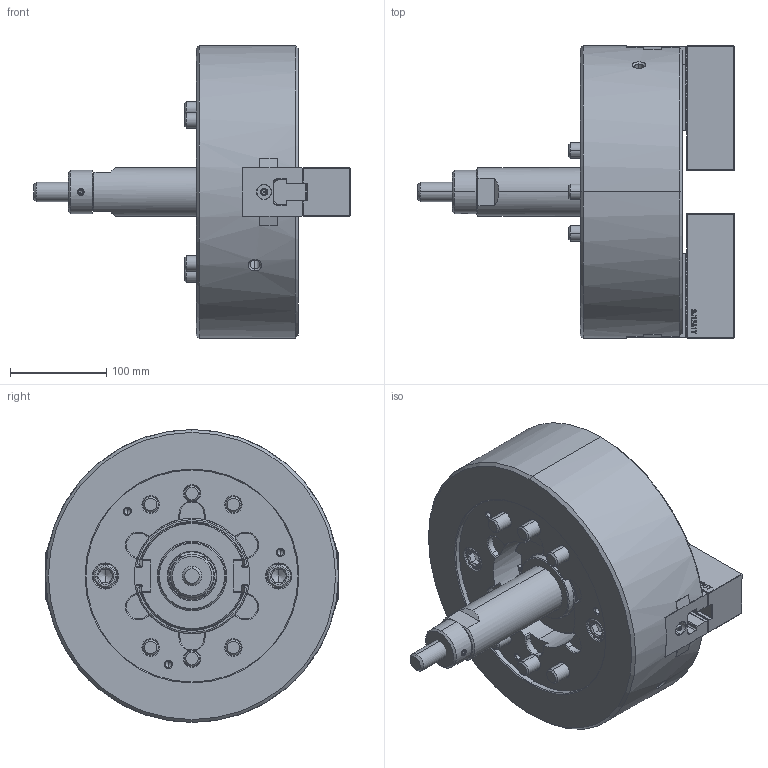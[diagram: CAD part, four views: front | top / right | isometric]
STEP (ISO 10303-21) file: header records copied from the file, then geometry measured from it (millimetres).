
FILE_DESCRIPTION (( 'STEP AP214' ), '1' );
FILE_NAME ('DT1_NLT12_OUTSIDE_VIEW_HUL.STEP', '2026-03-23T07:20:11', ( '' ), ( '' ), 'SwSTEP 2.0', 'SolidWorks 2022', '' );
FILE_SCHEMA (( 'AUTOMOTIVE_DESIGN' ));
Length unit declared in the file: millimetre
Products named in the file (11): DT1_NLT12_COVER^DT1_NLT12; DT1_NLT12_BASE^DT1_NLT12; Copy of 61P335750^DT1_NLT12; DT1_NLT12_DRAWSCREW^DT1_NLT12; DT1_NLT12_M16x100^DT1_NLT12; DT1_NLT12_M5x12^DT1_NLT12; DT1_NLT12_DN^DT1_NLT12; DT1_NLT12_M14x45^DT1_NLT12; DT1_NLT12_OUTSIDE_VIEW_HUL; DT1_NLT12_TNUT^DT1_NLT12; DT1_NLT12_SOFTJAW^DT1_NLT12
Assembly tree (23 placements, depth 2):
  DT1_NLT12_OUTSIDE_VIEW_HUL
    DT1_NLT12_SOFTJAW^DT1_NLT12  x2
    DT1_NLT12_TNUT^DT1_NLT12  x2
    DT1_NLT12_COVER^DT1_NLT12
    DT1_NLT12_DRAWSCREW^DT1_NLT12
    Copy of 61P335750^DT1_NLT12
    DT1_NLT12_DN^DT1_NLT12
    DT1_NLT12_BASE^DT1_NLT12
    DT1_NLT12_M16x100^DT1_NLT12  x6
    DT1_NLT12_M14x45^DT1_NLT12  x4
    DT1_NLT12_M5x12^DT1_NLT12  x4
Bounding box: 328.72 x 304 x 304 mm (x, y, z)
Volume: 7816565.6 mm3; surface area: 621703.2 mm2
Topology: 23 solids, 23 shells, 4499 faces, 12804 edges, 8375 vertices
Faces by surface type: plane 2696, cylinder 1210, cone 385, bspline 157, torus 47, sphere 4
Entity records: 110787 total; most frequent: CARTESIAN_POINT 30534, ORIENTED_EDGE 18300, DIRECTION 14390, EDGE_CURVE 9150, LINE 6488, VECTOR 6488, VERTEX_POINT 6002, AXIS2_PLACEMENT_3D 3951
